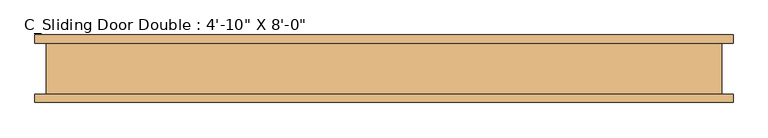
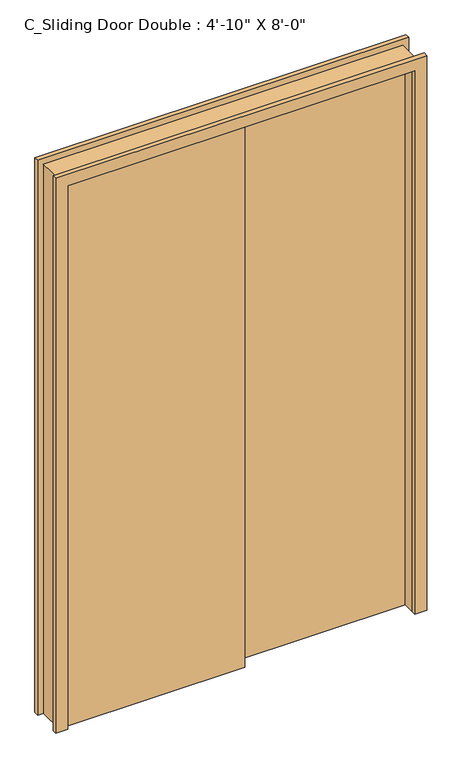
"""IFC4 building model written with IfcOpenShell, lengths in millimetres: door geometry."""

from ifc_helpers import new_model, si_unit, frame, origin, origin_with_axes, place, context, project, spatial, polyline, outline, extrude, source, transform, mapped, element, save


def door_951bc8e4(model_context):
    return source(origin(), model_context, "Body", "SweptSolid", [
        extrude(outline(polyline([(736.6, -6.35), (-25.4, -6.35), (-25.4, 44.45), (736.6, 44.45), (736.6, -6.35)])), origin_with_axes(), (0.0, 0.0, 1.0), 2438.4),
        extrude(outline(polyline([(25.4, -57.15), (-736.6, -57.15), (-736.6, -6.35), (25.4, -6.35), (25.4, -57.15)])), origin_with_axes(), (0.0, 0.0, 1.0), 2438.4),
        extrude(outline(polyline([(2438.4, -736.6), (2438.4, 736.6), (0.0, 736.6), (0.0, 787.4), (2489.2, 787.4), (2489.2, -787.4), (0.0, -787.4), (0.0, -736.6), (2438.4, -736.6)])), frame((0.0, -76.2, 0.0), z_axis=(0.0, 1.0, 0.0), x_axis=(0.0, 0.0, 1.0)), (0.0, 0.0, 1.0), 19.05),
        extrude(outline(polyline([(2438.4, -736.6), (2438.4, 736.6), (0.0, 736.6), (0.0, 787.4), (2489.2, 787.4), (2489.2, -787.4), (0.0, -787.4), (0.0, -736.6), (2438.4, -736.6)])), frame((0.0, 57.15, 0.0), z_axis=(0.0, 1.0, 0.0), x_axis=(0.0, 0.0, 1.0)), (0.0, 0.0, 1.0), 19.05),
        extrude(outline(polyline([(0.0, -762.0), (0.0, -736.6), (2438.4, -736.6), (2438.4, 736.6), (0.0, 736.6), (0.0, 762.0), (2463.8, 762.0), (2463.8, -762.0), (0.0, -762.0)])), frame((0.0, -57.15, 0.0), z_axis=(0.0, 1.0, 0.0), x_axis=(0.0, 0.0, 1.0)), (0.0, 0.0, 1.0), 114.3),
    ])


if __name__ == "__main__":
    model = new_model("IFC4")
    model_context = context("Model", 3, world=origin())
    ifc_project = project(units=[si_unit("LENGTHUNIT", "METRE", prefix="MILLI")], contexts=[model_context])
    site = spatial("IfcSite", under=ifc_project)
    building = spatial("IfcBuilding", under=site)
    placement = place(None, origin())
    door_shape = door_951bc8e4(model_context)
    element("IfcDoor", 1, ObjectType="C_Sliding Door Double : 4'-10\" X 8'-0\"", at=placement, inside=building, context=model_context, shape_type="MappedRepresentation", body=[
        mapped(door_shape, transform((0.0, 0.0, 0.0), x_axis=(1.0, 0.0, 0.0), y_axis=(0.0, 1.0, 0.0), z_axis=(0.0, 0.0, 1.0))),
    ])
    save(model, "model.ifc")
